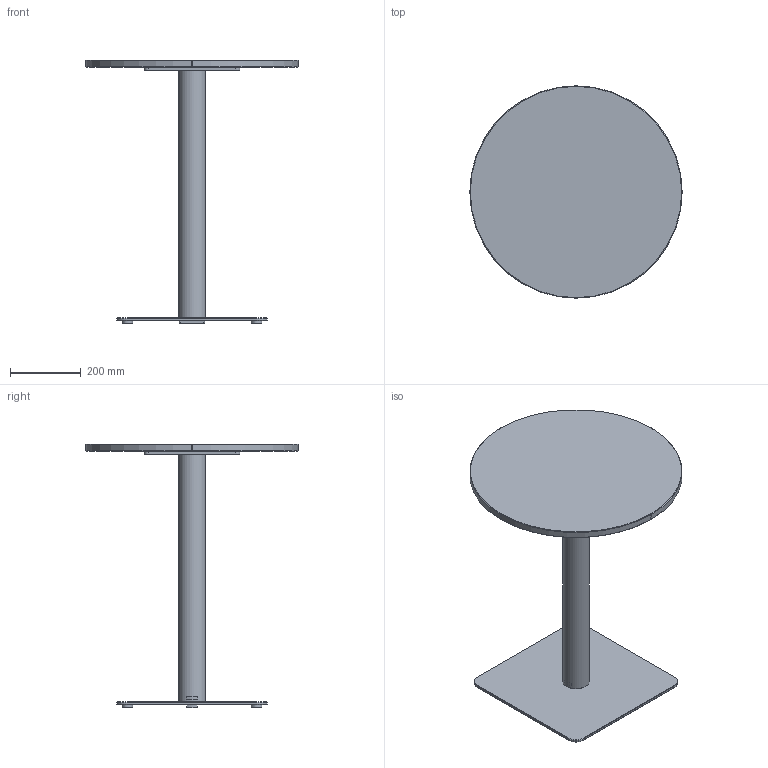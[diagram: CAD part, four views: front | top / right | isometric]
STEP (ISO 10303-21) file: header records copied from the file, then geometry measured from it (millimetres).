
FILE_DESCRIPTION( ('This file contains a STEP AP42 implementation' ,'as created by ZW3D STEP Interface translator.') ,'2;1' );
FILE_NAME( 'Henri - B_Carré - F1 - M1 - 600 x 600 x 750.stp' ,'24 912.1613 8', (''), ('ZWCAD Software Co.'), 'Version 1.0', 'ZW3D to STEP translator', '' );
FILE_SCHEMA(('AUTOMOTIVE_DESIGN { 1 0 10303 214 1 1 1 1 }'));
Length unit declared in the file: millimetre
Products named in the file (14): 0; PIED BISTROT PARAMETRIQUE_; COLONNE ACIER Ø76 V.02_; TUB-D076-02_; PLA-R76B-01_; CROIX ACIER 370 V.02_; CRX-X370-02_; SOCLE ACIER L 425x425 V.02_; SCL-R425-02_; PLA-R30A-01_; PLA-R30A-01; WUERTH 0276063020 Euro-screw 6.3x2 Verzinkt_; PLATEAU BISTROT PARAMETRIQUE_; insert_m6_13_
Assembly tree (22 placements, depth 3):
  0
  PIED BISTROT PARAMETRIQUE_
    COLONNE ACIER Ø76 V.02_
      TUB-D076-02_
      PLA-R76B-01_  x2
    CROIX ACIER 370 V.02_
      CRX-X370-02_
    SOCLE ACIER L 425x425 V.02_
      SCL-R425-02_
      PLA-R30A-01_
      PLA-R30A-01  x3
    WUERTH 0276063020 Euro-screw 6.3x2 Verzinkt_
    PLATEAU BISTROT PARAMETRIQUE_
      insert_m6_13_  x8
Bounding box: 600 x 600 x 744 mm (x, y, z)
Volume: 8033578.3 mm3; surface area: 1493681.9 mm2
Topology: 19 solids, 19 shells, 537 faces, 1310 edges, 822 vertices
Faces by surface type: plane 262, bspline 121, cylinder 98, cone 55, torus 1
Full cylindrical faces by diameter (mm): 4.88 x1, 6 x8, 6.3 x1, 8 x45, 12 x2, 14 x2, 30 x4, 72 x1, 76 x1
Entity records: 12310 total; most frequent: CARTESIAN_POINT 3396, ORIENTED_EDGE 1624, DIRECTION 1519, EDGE_CURVE 812, VERTEX_POINT 518, VECTOR 513, LINE 513, AXIS2_PLACEMENT_3D 503
